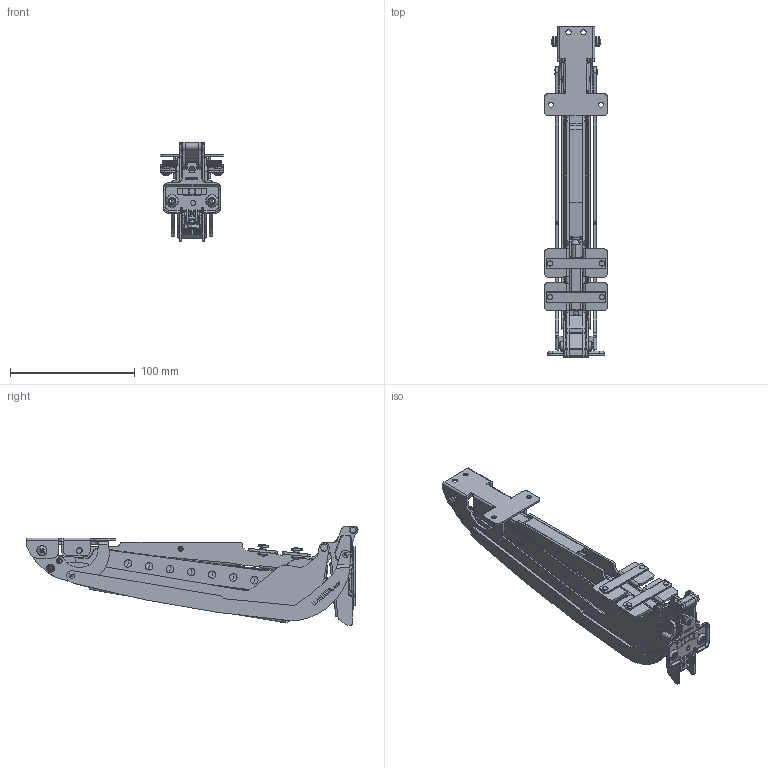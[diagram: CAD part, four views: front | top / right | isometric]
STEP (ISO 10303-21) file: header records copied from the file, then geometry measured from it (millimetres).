
FILE_DESCRIPTION (( 'STEP AP203' ), '1' );
FILE_NAME ('LIN_X450_close.STEP', '2012-07-23T05:23:49', ( '' ), ( '' ), 'SwSTEP 2.0', 'SolidWorks 2012', '' );
FILE_SCHEMA (( 'CONFIG_CONTROL_DESIGN' ));
Products named in the file (10): LIN_X450_close; LIN_X450ACD_閉時; LIN_X450_cover; LIN_X450_base_plate; LIN_X450_arm_D; LIN_X450_arm_C; LIN_X450_arm_B; LIN_X450_arm_A; LIN_X450_body; 230_P4W_32T
Assembly tree (9 placements, depth 3):
  LIN_X450_close
    230_P4W_32T
    LIN_X450ACD_閉時
      LIN_X450_body
      LIN_X450_arm_A
      LIN_X450_arm_B
      LIN_X450_arm_C
      LIN_X450_arm_D
      LIN_X450_base_plate
      LIN_X450_cover
Bounding box: 50 x 265.75 x 79.59 mm (x, y, z)
Volume: 115554.1 mm3; surface area: 142367.3 mm2
Topology: 50 solids, 50 shells, 4757 faces, 12449 edges, 7742 vertices
Faces by surface type: plane 1887, cylinder 1773, bspline 689, cone 222, torus 150, sphere 36
Entity records: 162450 total; most frequent: CARTESIAN_POINT 49501, ORIENTED_EDGE 24722, DIRECTION 22048, EDGE_CURVE 12361, AXIS2_PLACEMENT_3D 7779, VERTEX_POINT 7742, LINE 6490, VECTOR 6490
